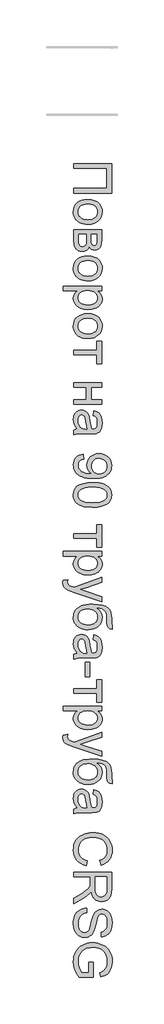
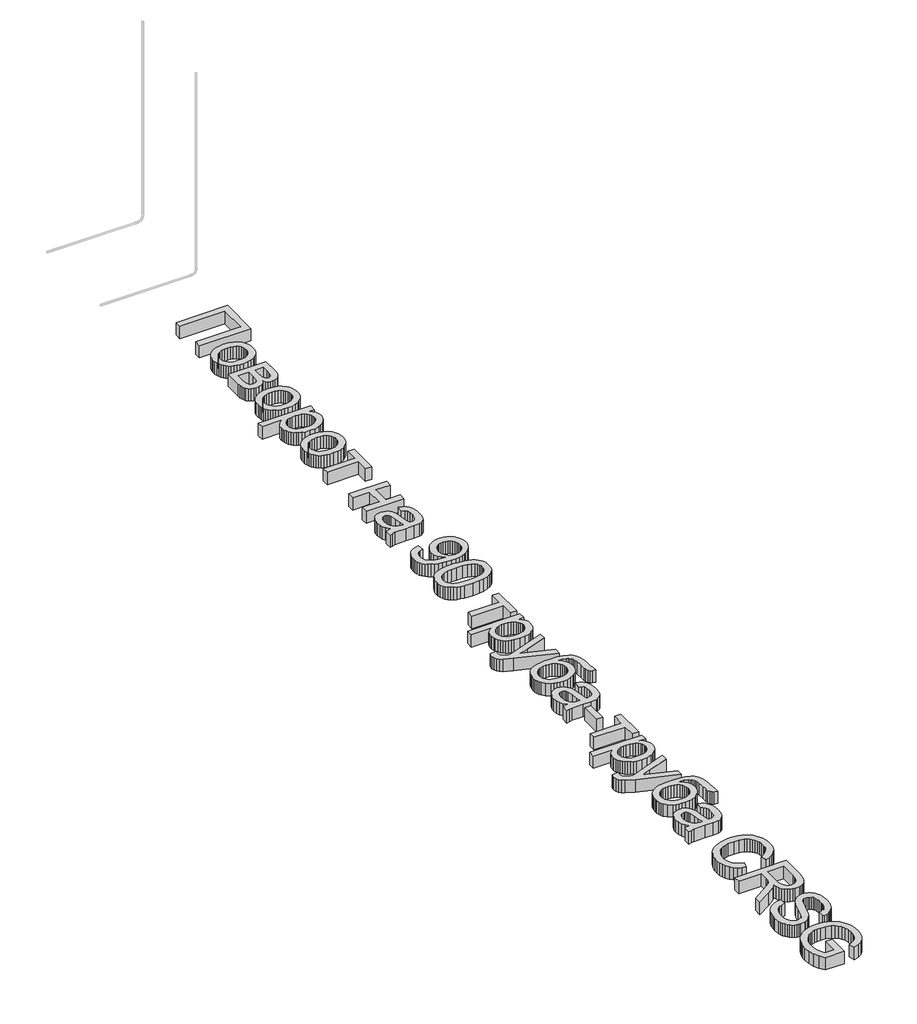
# One storey, part 17 of 33: 1 proxy.
"""IFC4 building model written with IfcOpenShell, lengths in millimetres."""

from ifc_helpers import new_model, si_unit, origin, origin_with_axes, place, context, project, spatial, polyline, outline, extrude, element, save

model = new_model("IFC4")

# Units and contexts
model_context = context("Model", 3, world=origin())
ifc_project = project(units=[si_unit("LENGTHUNIT", "METRE", prefix="MILLI")], contexts=[model_context])

# Site, building, storey
site = spatial("IfcSite", under=ifc_project)
building = spatial("IfcBuilding", under=site)
storey = spatial("IfcBuildingStorey", under=building, Name="Уровень 1", Elevation=0.0)

# Proxy
placement = place(None, origin())
element("IfcBuildingElementProxy", 1, Name="Надпись на модели 1", ObjectType="Надпись на модели 1", at=placement, inside=storey, context=model_context, shape_type="SweptSolid", body=[
    extrude(outline(polyline([(23915.2318032, -797.7209838), (23915.2318032, -1259.2594454), (23324.4625724, -1259.2594454), (23324.4625724, -1185.4132915), (23841.3856493, -1185.4132915), (23841.3856493, -871.5671377), (23324.4625724, -871.5671377), (23324.4625724, -797.7209838), (23915.2318032, -797.7209838)])), origin_with_axes(), (0.0, 0.0, 1.0), 150.0),
    extrude(outline(polyline([(23541.3856493, -1360.7979069), (23597.5725484, -1364.7912963), (23645.9890147, -1376.7714646), (23686.6350484, -1396.7384117), (23719.5106493, -1424.6921377), (23740.5232695, -1452.8351665), (23755.5322839, -1483.8988684), (23764.5376926, -1517.8832434), (23767.5394955, -1554.7882915), (23763.8841469, -1595.5289766), (23752.9181012, -1632.3664165), (23734.6413585, -1665.3006112), (23709.0539186, -1694.3315607), (23677.0211662, -1718.0259718), (23639.4084859, -1734.9505511), (23596.2158777, -1745.1052987), (23547.4433416, -1748.4902146), (23507.9150964, -1746.9938204), (23472.8399762, -1742.5046377), (23442.2179811, -1735.0226665), (23416.0491109, -1724.5479069), (23393.445445, -1711.211068), (23373.5190628, -1695.1428588), (23356.2699642, -1676.3432795), (23341.6981493, -1654.81233), (23330.1191229, -1631.3883516), (23321.8483897, -1606.9096857), (23316.8859498, -1581.3763324), (23315.2318032, -1554.7882915), (23318.8736301, -1513.4526545), (23329.7991109, -1476.2726665), (23348.0082455, -1443.2483276), (23373.5010339, -1414.3796377), (23405.8447839, -1390.9376305), (23444.6068032, -1374.1933396), (23489.7870916, -1364.1467651), (23541.3856493, -1360.7979069)]), holes=[polyline([(23541.5298801, -1434.6440607), (23505.71107, -1436.780479), (23474.6969474, -1443.1897338), (23448.4875123, -1453.8718252), (23427.0827647, -1468.8267531), (23410.4556613, -1487.0178588), (23398.5791589, -1507.4084838), (23391.4532575, -1529.9986281), (23389.077957, -1554.7882915), (23391.4667791, -1579.4517531), (23398.6332455, -1601.9517531), (23410.5773561, -1622.2882915), (23427.2991109, -1640.4613684), (23448.9156974, -1655.4162963), (23475.5443032, -1666.0983877), (23507.1849282, -1672.5076425), (23543.8375724, -1674.6440607), (23578.5205652, -1672.4941208), (23608.7233897, -1666.0443011), (23634.446046, -1655.2946016), (23655.6885339, -1640.2450223), (23672.3156373, -1622.0043372), (23684.1921397, -1601.6813204), (23691.3180412, -1579.2759718), (23693.6933416, -1554.7882915), (23691.3270556, -1529.9986281), (23684.2281974, -1507.4084838), (23672.3967671, -1487.0178588), (23655.8327647, -1468.8267531), (23634.4911181, -1453.8718252), (23608.3267551, -1443.1897338), (23577.3396758, -1436.780479), (23541.5298801, -1434.6440607)])]), origin_with_axes(), (0.0, 0.0, 1.0), 150.0),
    extrude(outline(polyline([(23758.3087262, -1831.5671377), (23758.3087262, -1994.2594454), (23755.8387743, -2046.5611281), (23748.4289186, -2083.4661761), (23734.4385339, -2110.6176184), (23712.2269955, -2133.6584838), (23683.2906974, -2149.3976665), (23649.1260339, -2154.6440607), (23621.5959859, -2151.4709838), (23597.8519955, -2141.9517531), (23577.7858897, -2126.0503107), (23561.2894955, -2103.7305992), (23545.9469474, -2131.06233), (23521.265457, -2153.3459838), (23489.1921397, -2168.1656954), (23451.6741109, -2173.1055992), (23421.4487503, -2169.0040367), (23395.3880532, -2160.59358), (23373.4920195, -2147.874229), (23355.7606493, -2130.8459838), (23342.0677407, -2109.4818011), (23332.2870916, -2083.7546377), (23326.4187022, -2053.6644934), (23324.4625724, -2019.2113684), (23324.4625724, -1831.5671377), (23758.3087262, -1831.5671377)]), holes=[polyline([(23398.3087262, -1905.4132915), (23398.3087262, -1995.9902146), (23401.6440628, -2045.3531954), (23411.6500724, -2076.3267531), (23419.5331854, -2085.9271136), (23429.8411782, -2092.9493492), (23457.7318032, -2099.2594454), (23476.2113705, -2096.1043973), (23493.2846878, -2086.6392531), (23506.6440628, -2072.1080031), (23513.9818032, -2053.7546377), (23518.3087262, -1988.7786761), (23518.3087262, -1905.4132915), (23398.3087262, -1905.4132915)]), polyline([(23592.1548801, -1905.4132915), (23592.1548801, -1978.3940607), (23595.9048801, -2038.6104069), (23601.5298801, -2054.1152146), (23610.9048801, -2067.8892531), (23623.3087262, -2077.5707434), (23638.0202647, -2080.7979069), (23650.0184618, -2079.3826425), (23660.0515147, -2075.1368492), (23668.1194234, -2068.0605271), (23674.2221878, -2058.1536761), (23681.9024762, -2027.46858), (23684.4625724, -1980.7017531), (23684.4625724, -1905.4132915), (23592.1548801, -1905.4132915)])]), origin_with_axes(), (0.0, 0.0, 1.0), 150.0),
    extrude(outline(polyline([(23541.3856493, -2246.9517531), (23597.5725484, -2250.9451425), (23645.9890147, -2262.9253107), (23686.6350484, -2282.8922579), (23719.5106493, -2310.8459838), (23740.5232695, -2338.9890127), (23755.5322839, -2370.0527146), (23764.5376926, -2404.0370896), (23767.5394955, -2440.9421377), (23763.8841469, -2481.6828228), (23752.9181012, -2518.5202627), (23734.6413585, -2551.4544574), (23709.0539186, -2580.4854069), (23677.0211662, -2604.179818), (23639.4084859, -2621.1043973), (23596.2158777, -2631.2591449), (23547.4433416, -2634.6440607), (23507.9150964, -2633.1476665), (23472.8399762, -2628.6584838), (23442.2179811, -2621.1765127), (23416.0491109, -2610.7017531), (23393.445445, -2597.3649141), (23373.5190628, -2581.296705), (23356.2699642, -2562.4971256), (23341.6981493, -2540.9661761), (23330.1191229, -2517.5421978), (23321.8483897, -2493.0635319), (23316.8859498, -2467.5301785), (23315.2318032, -2440.9421377), (23318.8736301, -2399.6065006), (23329.7991109, -2362.4265127), (23348.0082455, -2329.4021737), (23373.5010339, -2300.5334838), (23405.8447839, -2277.0914766), (23444.6068032, -2260.3471857), (23489.7870916, -2250.3006112), (23541.3856493, -2246.9517531)]), holes=[polyline([(23541.5298801, -2320.7979069), (23505.71107, -2322.9343252), (23474.6969474, -2329.34358), (23448.4875123, -2340.0256713), (23427.0827647, -2354.9805992), (23410.4556613, -2373.171705), (23398.5791589, -2393.56233), (23391.4532575, -2416.1524742), (23389.077957, -2440.9421377), (23391.4667791, -2465.6055992), (23398.6332455, -2488.1055992), (23410.5773561, -2508.4421377), (23427.2991109, -2526.6152146), (23448.9156974, -2541.5701425), (23475.5443032, -2552.2522338), (23507.1849282, -2558.6614886), (23543.8375724, -2560.7979069), (23578.5205652, -2558.647967), (23608.7233897, -2552.1981473), (23634.446046, -2541.4484478), (23655.6885339, -2526.3988684), (23672.3156373, -2508.1581833), (23684.1921397, -2487.8351665), (23691.3180412, -2465.429818), (23693.6933416, -2440.9421377), (23691.3270556, -2416.1524742), (23684.2281974, -2393.56233), (23672.3967671, -2373.171705), (23655.8327647, -2354.9805992), (23634.4911181, -2340.0256713), (23608.3267551, -2329.34358), (23577.3396758, -2322.9343252), (23541.5298801, -2320.7979069)])]), origin_with_axes(), (0.0, 0.0, 1.0), 150.0),
    extrude(outline(polyline([(23158.3087262, -2717.7209838), (23758.3087262, -2717.7209838), (23758.3087262, -2791.5671377), (23685.9048801, -2791.5671377), (23721.6200243, -2815.6536761), (23747.1308416, -2842.62483), (23762.437332, -2874.0671377), (23767.5394955, -2911.5671377), (23765.7546397, -2937.3213444), (23760.4000724, -2961.5070415), (23751.4757936, -2984.124229), (23738.9818032, -3005.1729069), (23723.2426205, -3024.1933396), (23704.5827647, -3040.7257915), (23683.0022359, -3054.7702627), (23658.5010339, -3066.3267531), (23604.0899762, -3081.7955031), (23544.702957, -3086.9517531), (23481.5479089, -3081.1284357), (23452.4718873, -3073.8492891), (23425.0635339, -3063.6584838), (23400.0394955, -3050.6957434), (23378.1164186, -3035.1007915), (23359.2943032, -3016.8736281), (23343.5731493, -2996.0142531), (23331.1738104, -2973.5458035), (23322.3171397, -2950.4914165), (23317.0031373, -2926.851092), (23315.2318032, -2902.62483), (23319.9733897, -2868.6765127), (23334.1981493, -2838.3700223), (23355.6705051, -2812.4265127), (23382.1548801, -2791.5671377), (23158.3087262, -2791.5671377), (23158.3087262, -2717.7209838)]), holes=[polyline([(23537.9241109, -2791.5671377), (23502.3351686, -2793.5638324), (23471.7221878, -2799.5539165), (23446.0851686, -2809.5373901), (23425.4241109, -2823.5142531), (23409.5226686, -2840.3396737), (23398.1644955, -2858.8688204), (23391.3495916, -2879.101693), (23389.077957, -2901.0382915), (23391.4307214, -2923.2903949), (23398.4890147, -2943.8928588), (23410.2528368, -2962.8456833), (23426.7221878, -2980.1488684), (23448.1314426, -2994.5674381), (23474.7149762, -3004.8664165), (23506.4727887, -3011.0458035), (23543.4048801, -3013.1055992), (23578.687332, -3011.0953829), (23609.2462262, -3005.0647338), (23635.0815628, -2995.0136521), (23656.1933416, -2980.9421377), (23672.5995916, -2964.0761521), (23684.3183416, -2945.6416569), (23691.3495916, -2925.6386521), (23693.6933416, -2904.0671377), (23691.2008537, -2882.5632314), (23683.7233897, -2862.3303588), (23671.2609498, -2843.3685199), (23653.8135339, -2825.6777146), (23631.6155171, -2810.7543372), (23604.9012743, -2800.0947819), (23573.6708056, -2793.6990487), (23537.9241109, -2791.5671377)])]), origin_with_axes(), (0.0, 0.0, 1.0), 150.0),
    extrude(outline(polyline([(23541.3856493, -3151.5671377), (23597.5725484, -3155.5605271), (23645.9890147, -3167.5406954), (23686.6350484, -3187.5076425), (23719.5106493, -3215.4613684), (23740.5232695, -3243.6043973), (23755.5322839, -3274.6680992), (23764.5376926, -3308.6524742), (23767.5394955, -3345.5575223), (23763.8841469, -3386.2982074), (23752.9181012, -3423.1356473), (23734.6413585, -3456.069842), (23709.0539186, -3485.1007915), (23677.0211662, -3508.7952026), (23639.4084859, -3525.7197819), (23596.2158777, -3535.8745295), (23547.4433416, -3539.2594454), (23507.9150964, -3537.7630511), (23472.8399762, -3533.2738684), (23442.2179811, -3525.7918973), (23416.0491109, -3515.3171377), (23393.445445, -3501.9802987), (23373.5190628, -3485.9120896), (23356.2699642, -3467.1125103), (23341.6981493, -3445.5815607), (23330.1191229, -3422.1575824), (23321.8483897, -3397.6789165), (23316.8859498, -3372.1455631), (23315.2318032, -3345.5575223), (23318.8736301, -3304.2218853), (23329.7991109, -3267.0418973), (23348.0082455, -3234.0175583), (23373.5010339, -3205.1488684), (23405.8447839, -3181.7068612), (23444.6068032, -3164.9625704), (23489.7870916, -3154.9159958), (23541.3856493, -3151.5671377)]), holes=[polyline([(23541.5298801, -3225.4132915), (23505.71107, -3227.5497098), (23474.6969474, -3233.9589646), (23448.4875123, -3244.6410559), (23427.0827647, -3259.5959838), (23410.4556613, -3277.7870896), (23398.5791589, -3298.1777146), (23391.4532575, -3320.7678588), (23389.077957, -3345.5575223), (23391.4667791, -3370.2209838), (23398.6332455, -3392.7209838), (23410.5773561, -3413.0575223), (23427.2991109, -3431.2305992), (23448.9156974, -3446.1855271), (23475.5443032, -3456.8676184), (23507.1849282, -3463.2768732), (23543.8375724, -3465.4132915), (23578.5205652, -3463.2633516), (23608.7233897, -3456.8135319), (23634.446046, -3446.0638324), (23655.6885339, -3431.0142531), (23672.3156373, -3412.773568), (23684.1921397, -3392.4505511), (23691.3180412, -3370.0452026), (23693.6933416, -3345.5575223), (23691.3270556, -3320.7678588), (23684.2281974, -3298.1777146), (23672.3967671, -3277.7870896), (23655.8327647, -3259.5959838), (23634.4911181, -3244.6410559), (23608.3267551, -3233.9589646), (23577.3396758, -3227.5497098), (23541.5298801, -3225.4132915)])]), origin_with_axes(), (0.0, 0.0, 1.0), 150.0),
    extrude(outline(polyline([(23758.3087262, -3585.4132915), (23758.3087262, -3936.1825223), (23684.4625724, -3936.1825223), (23684.4625724, -3797.7209838), (23324.4625724, -3797.7209838), (23324.4625724, -3723.87483), (23684.4625724, -3723.87483), (23684.4625724, -3585.4132915), (23758.3087262, -3585.4132915)])), origin_with_axes(), (0.0, 0.0, 1.0), 150.0),
    extrude(outline(polyline([(23758.3087262, -4231.5671377), (23758.3087262, -4305.4132915), (23592.1548801, -4305.4132915), (23592.1548801, -4499.2594454), (23758.3087262, -4499.2594454), (23758.3087262, -4573.1055992), (23324.4625724, -4573.1055992), (23324.4625724, -4499.2594454), (23518.3087262, -4499.2594454), (23518.3087262, -4305.4132915), (23324.4625724, -4305.4132915), (23324.4625724, -4231.5671377), (23758.3087262, -4231.5671377)])), origin_with_axes(), (0.0, 0.0, 1.0), 150.0),
    extrude(outline(polyline([(23379.8471878, -4960.7979069), (23349.5947839, -4925.515455), (23329.7991109, -4889.18733), (23318.8736301, -4850.984205), (23315.2318032, -4810.0767531), (23317.422308, -4777.1966449), (23323.9938224, -4748.3640127), (23334.9463464, -4723.5788564), (23350.2798801, -4702.8411761), (23369.0208657, -4686.4664766), (23390.1957455, -4674.7702627), (23413.8045195, -4667.7525343), (23439.8471878, -4665.4132915), (23470.4601686, -4668.9469454), (23498.2606493, -4679.5479069), (23522.0587262, -4695.9000704), (23540.6644955, -4716.68733), (23554.7269955, -4741.1164165), (23564.8952647, -4768.3940607), (23576.0010339, -4832.2882915), (23587.6837262, -4907.7930992), (23601.3856493, -4960.3652146), (23617.827957, -4960.7979069), (23650.7846878, -4955.7137723), (23662.9902166, -4949.358604), (23672.3471878, -4940.4613684), (23681.6861301, -4925.0827627), (23688.3568032, -4906.3507915), (23693.6933416, -4858.8267531), (23690.1416589, -4814.8363684), (23679.4866109, -4784.1152146), (23659.781082, -4763.1656954), (23629.077957, -4748.4902146), (23638.3087262, -4674.6440607), (23678.6933416, -4687.4625704), (23710.4241109, -4706.5911761), (23734.6909378, -4733.8147338), (23752.6837262, -4770.9180992), (23763.8255532, -4816.296705), (23767.5394955, -4868.3459838), (23764.2582455, -4918.2678588), (23754.4144955, -4957.8411761), (23739.6128128, -4987.6789165), (23721.4577647, -5008.3940607), (23699.0118512, -5022.1320415), (23671.3375724, -5031.0382915), (23606.7221878, -5034.6440607), (23514.8471878, -5034.6440607), (23386.5539186, -5038.3940607), (23354.8411782, -5043.9469454), (23324.4625724, -5053.1055992), (23324.4625724, -4979.2594454), (23350.1356493, -4967.4325223), (23379.8471878, -4960.7979069)]), holes=[polyline([(23527.5394955, -4960.7979069), (23515.2438224, -4911.1825223), (23504.8952647, -4841.6632915), (23492.9241109, -4778.1296377), (23484.7390147, -4761.5971857), (23473.452957, -4749.3555992), (23459.9313224, -4741.7834838), (23445.0394955, -4739.2594454), (23423.0803609, -4744.7582434), (23405.0875724, -4761.2546377), (23393.0803609, -4788.3880511), (23389.077957, -4825.7979069), (23393.4950243, -4865.4613684), (23406.7462262, -4900.5094454), (23426.2714666, -4928.9229069), (23449.5106493, -4948.6825223), (23473.452957, -4957.4445415), (23506.6260339, -4960.3652146), (23527.5394955, -4960.7979069)])]), origin_with_axes(), (0.0, 0.0, 1.0), 150.0),
    extrude(outline(polyline([(23472.1548801, -5357.7209838), (23481.3856493, -5431.5671377), (23439.468582, -5444.18733), (23423.5265748, -5453.4721857), (23410.9289186, -5464.7402146), (23401.3691229, -5477.8652146), (23394.5406974, -5492.7209838), (23389.077957, -5527.62483), (23392.593582, -5558.9409357), (23403.140457, -5587.4084838), (23419.5647359, -5611.06233), (23440.7125724, -5627.93733), (23468.5130532, -5640.7197819), (23504.8952647, -5652.0959838), (23546.6500724, -5660.1007915), (23590.5683416, -5662.7690607), (23604.9914186, -5662.3363684), (23573.765457, -5636.7534357), (23549.0298801, -5603.2738684), (23532.9120916, -5564.3135319), (23527.5394955, -5522.2882915), (23530.8207455, -5487.2086641), (23540.6644955, -5454.9505511), (23557.0707455, -5425.5139526), (23580.0394955, -5398.8988684), (23608.3718272, -5376.8450824), (23640.8688224, -5361.0923781), (23677.5304811, -5351.6407555), (23718.3568032, -5348.4902146), (23760.5443032, -5351.7940006), (23798.4048801, -5361.7053588), (23831.9385339, -5378.2242891), (23861.1452647, -5401.3507915), (23884.8081253, -5429.4532555), (23901.7101686, -5460.9000704), (23911.8513945, -5495.6912362), (23915.2318032, -5533.8267531), (23913.3027166, -5561.9833035), (23907.515457, -5588.9048781), (23897.8700243, -5614.5914766), (23884.3664186, -5639.0430992), (23867.2931012, -5661.4439406), (23846.9385339, -5680.9781954), (23823.3027166, -5697.6458636), (23796.3856493, -5711.4469454), (23764.6368512, -5722.2687603), (23726.5058416, -5729.9986281), (23681.9926205, -5734.6365487), (23631.0971878, -5736.1825223), (23577.6461662, -5734.6410559), (23529.937332, -5730.0166569), (23487.9706854, -5722.3093252), (23451.7462262, -5711.5190607), (23420.3805412, -5697.6864285), (23392.9902166, -5680.8519934), (23369.5752527, -5661.0157555), (23350.1356493, -5638.1777146), (23334.8652166, -5612.7976064), (23323.9577647, -5585.3351665), (23317.4132936, -5555.7903949), (23315.2318032, -5524.1632915), (23317.805421, -5490.999229), (23325.5262743, -5461.0262723), (23338.3943633, -5434.2444213), (23356.4096878, -5410.6536761), (23379.085469, -5390.8489886), (23405.9349282, -5375.4253107), (23436.9580652, -5364.3826425), (23472.1548801, -5357.7209838)]), holes=[polyline([(23720.0875724, -5662.3363684), (23746.5539186, -5660.3441809), (23770.1356493, -5654.3676184), (23790.8327647, -5644.4066809), (23808.6452647, -5630.4613684), (23822.969183, -5613.2167771), (23833.2005532, -5593.3580031), (23839.3393753, -5570.8850463), (23841.3856493, -5545.7979069), (23839.1816229, -5519.9084838), (23832.5695436, -5496.4709838), (23821.5494113, -5475.4854069), (23806.1212262, -5456.9517531), (23787.1864306, -5441.8075223), (23765.6464666, -5430.9902146), (23741.5013344, -5424.49983), (23714.7510339, -5422.3363684), (23690.7591469, -5424.3826425), (23669.1200243, -5430.5214646), (23649.8336662, -5440.7528348), (23632.9000724, -5455.0767531), (23619.1125123, -5472.8982675), (23609.2642551, -5493.6224261), (23603.3553008, -5517.249229), (23601.3856493, -5543.7786761), (23603.3553008, -5568.5187603), (23609.2642551, -5590.9601665), (23619.1125123, -5611.1028949), (23632.9000724, -5628.9469454), (23650.1671998, -5643.554818), (23670.4541589, -5653.9890127), (23693.7609498, -5660.2495295), (23720.0875724, -5662.3363684)])]), origin_with_axes(), (0.0, 0.0, 1.0), 150.0),
    extrude(outline(polyline([(23615.0875724, -5800.7979069), (23709.6488705, -5806.2245896), (23749.7495315, -5813.007943), (23785.0635339, -5822.5046377), (23815.8793392, -5834.6741088), (23842.4854089, -5849.4757915), (23864.8817431, -5866.9096857), (23883.0683416, -5886.9757915), (23897.1398561, -5909.741717), (23907.1909378, -5935.2750704), (23913.2215868, -5963.5758516), (23915.2318032, -5994.6440607), (23910.4721878, -6040.1488684), (23896.1933416, -6080.8940607), (23872.9541589, -6114.96858), (23841.3135339, -6140.4613684), (23801.5418993, -6159.7161761), (23753.9096878, -6175.0767531), (23693.4229089, -6185.1368492), (23615.0875724, -6188.4902146), (23521.0671397, -6183.1176184), (23481.101695, -6176.4018732), (23445.8327647, -6166.99983), (23415.0034378, -6154.9250103), (23388.3568032, -6140.1909357), (23365.8928609, -6122.7976064), (23347.6116109, -6102.7450223), (23333.445445, -6079.9520535), (23323.3267551, -6054.3375704), (23317.2555412, -6025.9015728), (23315.2318032, -5994.6440607), (23318.7474282, -5953.9709838), (23329.2943032, -5917.9132915), (23346.8724282, -5886.4709838), (23371.4818032, -5859.6440607), (23415.9679811, -5833.8988684), (23471.3976686, -5815.5094454), (23537.7708657, -5804.4757915), (23615.0875724, -5800.7979069)]), holes=[polyline([(23615.2318032, -5874.6440607), (23551.0355892, -5876.8075223), (23499.0719474, -5883.2979069), (23459.3408777, -5894.1152146), (23431.8423801, -5909.2594454), (23413.132945, -5927.5767531), (23399.7690628, -5947.9132915), (23391.7507335, -5970.2690607), (23389.077957, -5994.6440607), (23391.7597479, -6019.0190607), (23399.8051205, -6041.37483), (23413.2140748, -6061.7113684), (23431.9866109, -6080.0286761), (23459.5301806, -6095.1729069), (23499.2522359, -6105.9902146), (23551.1527767, -6112.4805992), (23615.2318032, -6114.6440607), (23677.7287984, -6112.5527146), (23728.7774762, -6106.2786761), (23768.3778368, -6095.8219454), (23796.5298801, -6081.1825223), (23816.1542791, -6063.171705), (23830.171707, -6042.6007915), (23838.5821637, -6019.4697819), (23841.3856493, -5993.7786761), (23838.9156974, -5969.5298781), (23831.5058416, -5947.5527146), (23819.156082, -5927.8471857), (23801.8664186, -5910.4132915), (23771.2173801, -5894.7642531), (23729.8952647, -5883.5863684), (23677.9000724, -5876.8796377), (23615.2318032, -5874.6440607)])]), origin_with_axes(), (0.0, 0.0, 1.0), 150.0),
    extrude(outline(polyline([(23758.3087262, -6465.4132915), (23758.3087262, -6816.1825223), (23684.4625724, -6816.1825223), (23684.4625724, -6677.7209838), (23324.4625724, -6677.7209838), (23324.4625724, -6603.87483), (23684.4625724, -6603.87483), (23684.4625724, -6465.4132915), (23758.3087262, -6465.4132915)])), origin_with_axes(), (0.0, 0.0, 1.0), 150.0),
    extrude(outline(polyline([(23158.3087262, -6880.7979069), (23758.3087262, -6880.7979069), (23758.3087262, -6954.6440607), (23685.9048801, -6954.6440607), (23721.6200243, -6978.7305992), (23747.1308416, -7005.7017531), (23762.437332, -7037.1440607), (23767.5394955, -7074.6440607), (23765.7546397, -7100.3982675), (23760.4000724, -7124.5839646), (23751.4757936, -7147.2011521), (23738.9818032, -7168.24983), (23723.2426205, -7187.2702627), (23704.5827647, -7203.8027146), (23683.0022359, -7217.8471857), (23658.5010339, -7229.4036761), (23604.0899762, -7244.8724261), (23544.702957, -7250.0286761), (23481.5479089, -7244.2053588), (23452.4718873, -7236.9262122), (23425.0635339, -7226.7354069), (23400.0394955, -7213.7726665), (23378.1164186, -7198.1777146), (23359.2943032, -7179.9505511), (23343.5731493, -7159.0911761), (23331.1738104, -7136.6227266), (23322.3171397, -7113.5683396), (23317.0031373, -7089.9280151), (23315.2318032, -7065.7017531), (23319.9733897, -7031.7534357), (23334.1981493, -7001.4469454), (23355.6705051, -6975.5034357), (23382.1548801, -6954.6440607), (23158.3087262, -6954.6440607), (23158.3087262, -6880.7979069)]), holes=[polyline([(23537.9241109, -6954.6440607), (23502.3351686, -6956.6407555), (23471.7221878, -6962.6308396), (23446.0851686, -6972.6143131), (23425.4241109, -6986.5911761), (23409.5226686, -7003.4165968), (23398.1644955, -7021.9457434), (23391.3495916, -7042.178616), (23389.077957, -7064.1152146), (23391.4307214, -7086.367318), (23398.4890147, -7106.9697819), (23410.2528368, -7125.9226064), (23426.7221878, -7143.2257915), (23448.1314426, -7157.6443612), (23474.7149762, -7167.9433396), (23506.4727887, -7174.1227266), (23543.4048801, -7176.1825223), (23578.687332, -7174.1723059), (23609.2462262, -7168.1416569), (23635.0815628, -7158.0905752), (23656.1933416, -7144.0190607), (23672.5995916, -7127.1530752), (23684.3183416, -7108.71858), (23691.3495916, -7088.7155752), (23693.6933416, -7067.1440607), (23691.2008537, -7045.6401545), (23683.7233897, -7025.4072819), (23671.2609498, -7006.445443), (23653.8135339, -6988.7546377), (23631.6155171, -6973.8312603), (23604.9012743, -6963.171705), (23573.6708056, -6956.7759718), (23537.9241109, -6954.6440607)])]), origin_with_axes(), (0.0, 0.0, 1.0), 150.0),
    extrude(outline(polyline([(23158.3087262, -7333.1055992), (23229.4144955, -7323.87483), (23222.9241109, -7361.37483), (23224.9613705, -7381.0983877), (23231.0731493, -7396.4229069), (23240.8267551, -7408.3580031), (23253.7894955, -7417.9132915), (23308.1644955, -7438.1055992), (23326.0491109, -7443.87483), (23758.3087262, -7286.9517531), (23758.3087262, -7364.8363684), (23517.4433416, -7448.0575223), (23421.0971878, -7477.0479069), (23506.1933416, -7506.0382915), (23758.3087262, -7591.5671377), (23758.3087262, -7668.87483), (23314.077957, -7517.8652146), (23217.7318032, -7478.6344454), (23186.9745916, -7458.5503107), (23165.6644955, -7435.7979069), (23153.2245916, -7409.3676184), (23149.077957, -7378.24983), (23151.3856493, -7356.8676184), (23158.3087262, -7333.1055992)])), origin_with_axes(), (0.0, 0.0, 1.0), 150.0),
    extrude(outline(polyline([(23924.4625724, -8034.6440607), (23924.4625724, -8099.2594454), (23889.3604089, -8092.2642531), (23866.8423801, -8080.2209838), (23853.5190628, -8063.5262723), (23846.0010339, -8042.5767531), (23842.5394955, -8008.4301184), (23841.3856493, -7952.1440607), (23837.1308416, -7877.0539165), (23831.812332, -7850.1503708), (23824.3664186, -7830.3411761), (23814.5767551, -7815.2239886), (23802.2269955, -7802.3964646), (23787.3171397, -7791.858604), (23769.8471878, -7783.6104069), (23726.9745916, -7772.5587242), (23673.3568032, -7767.8171377), (23714.6068032, -7797.5106473), (23744.0298801, -7831.7834838), (23761.6620916, -7870.671705), (23767.5394955, -7914.2113684), (23763.8030171, -7954.4427386), (23752.593582, -7991.0503107), (23733.9111902, -8024.0340848), (23707.7558416, -8053.3940607), (23675.227296, -8077.4986281), (23637.4253128, -8094.7161761), (23594.3498921, -8105.046705), (23546.0010339, -8108.4902146), (23509.0148561, -8106.7819814), (23475.5082455, -8101.6572819), (23445.4812022, -8093.116116), (23418.9337262, -8081.1584838), (23374.9613705, -8051.2846857), (23342.2750724, -8016.3267531), (23330.4436421, -7995.8820415), (23321.9926205, -7972.0479069), (23316.9220075, -7944.8243492), (23315.2318032, -7914.2113684), (23317.4087863, -7878.7982074), (23323.9397359, -7847.5587242), (23334.8246517, -7820.4929189), (23350.0635339, -7797.6007915), (23368.6963464, -7778.007943), (23389.7630532, -7760.8399742), (23413.2636541, -7746.0968853), (23439.1981493, -7733.7786761), (23471.3841469, -7724.0611281), (23513.6392551, -7717.1200223), (23565.9634738, -7712.9553588), (23628.3568032, -7711.5671377), (23706.1107094, -7715.069241), (23770.0455051, -7725.5755511), (23820.1611902, -7743.086068), (23840.0368663, -7754.4679039), (23856.4577647, -7767.6007915), (23882.1714065, -7799.3811401), (23900.5382936, -7838.6885319), (23911.5584258, -7885.522967), (23915.2318032, -7939.8844454), (23916.890457, -8022.0959838), (23919.6128128, -8030.1368492), (23924.4625724, -8034.6440607)]), holes=[polyline([(23548.3087262, -8034.6440607), (23578.8090267, -8032.6428588), (23606.4156974, -8026.6392531), (23631.1287383, -8016.6332434), (23652.9481493, -8002.62483), (23670.774171, -7984.9745896), (23683.5070436, -7964.0430992), (23691.1467671, -7939.8303588), (23693.6933416, -7912.3363684), (23691.0025363, -7883.6434598), (23682.9301205, -7858.4301184), (23669.476094, -7836.6963444), (23650.640457, -7818.4421377), (23627.3066229, -7803.9920175), (23600.3580051, -7793.6705031), (23569.7946037, -7787.4775944), (23535.6164186, -7785.4132915), (23502.1503729, -7787.6939406), (23472.8580051, -7794.5358877), (23447.7393152, -7805.9391329), (23426.7943032, -7821.9036761), (23410.2934017, -7841.2125704), (23398.5070436, -7862.6488684), (23391.4352287, -7886.2125704), (23389.077957, -7911.9036761), (23391.80482, -7937.9463444), (23399.9854089, -7961.4108877), (23413.6197238, -7982.2973059), (23432.7077647, -8000.6055992), (23456.2940027, -8015.4974261), (23483.4229089, -8026.1344454), (23514.0944835, -8032.5166569), (23548.3087262, -8034.6440607)])]), origin_with_axes(), (0.0, 0.0, 1.0), 150.0),
    extrude(outline(polyline([(23379.8471878, -8477.7209838), (23349.5947839, -8442.4385319), (23329.7991109, -8406.1104069), (23318.8736301, -8367.9072819), (23315.2318032, -8326.99983), (23317.422308, -8294.1197218), (23323.9938224, -8265.2870896), (23334.9463464, -8240.5019333), (23350.2798801, -8219.7642531), (23369.0208657, -8203.3895535), (23390.1957455, -8191.6933396), (23413.8045195, -8184.6756112), (23439.8471878, -8182.3363684), (23470.4601686, -8185.8700223), (23498.2606493, -8196.4709838), (23522.0587262, -8212.8231473), (23540.6644955, -8233.6104069), (23554.7269955, -8258.0394934), (23564.8952647, -8285.3171377), (23576.0010339, -8349.2113684), (23587.6837262, -8424.7161761), (23601.3856493, -8477.2882915), (23617.827957, -8477.7209838), (23650.7846878, -8472.6368492), (23662.9902166, -8466.2816809), (23672.3471878, -8457.3844454), (23681.6861301, -8442.0058396), (23688.3568032, -8423.2738684), (23693.6933416, -8375.74983), (23690.1416589, -8331.7594454), (23679.4866109, -8301.0382915), (23659.781082, -8280.0887723), (23629.077957, -8265.4132915), (23638.3087262, -8191.5671377), (23678.6933416, -8204.3856473), (23710.4241109, -8223.5142531), (23734.6909378, -8250.7378107), (23752.6837262, -8287.8411761), (23763.8255532, -8333.2197819), (23767.5394955, -8385.2690607), (23764.2582455, -8435.1909357), (23754.4144955, -8474.7642531), (23739.6128128, -8504.6019934), (23721.4577647, -8525.3171377), (23699.0118512, -8539.0551184), (23671.3375724, -8547.9613684), (23606.7221878, -8551.5671377), (23514.8471878, -8551.5671377), (23386.5539186, -8555.3171377), (23354.8411782, -8560.8700223), (23324.4625724, -8570.0286761), (23324.4625724, -8496.1825223), (23350.1356493, -8484.3555992), (23379.8471878, -8477.7209838)]), holes=[polyline([(23527.5394955, -8477.7209838), (23515.2438224, -8428.1055992), (23504.8952647, -8358.5863684), (23492.9241109, -8295.0527146), (23484.7390147, -8278.5202627), (23473.452957, -8266.2786761), (23459.9313224, -8258.7065607), (23445.0394955, -8256.1825223), (23423.0803609, -8261.6813204), (23405.0875724, -8278.1777146), (23393.0803609, -8305.3111281), (23389.077957, -8342.7209838), (23393.4950243, -8382.3844454), (23406.7462262, -8417.4325223), (23426.2714666, -8445.8459838), (23449.5106493, -8465.6055992), (23473.452957, -8474.3676184), (23506.6260339, -8477.2882915), (23527.5394955, -8477.7209838)])]), origin_with_axes(), (0.0, 0.0, 1.0), 150.0),
    extrude(outline(polyline([(23499.8471878, -8616.1825223), (23573.6933416, -8616.1825223), (23573.6933416, -8846.9517531), (23499.8471878, -8846.9517531), (23499.8471878, -8616.1825223)])), origin_with_axes(), (0.0, 0.0, 1.0), 150.0),
    extrude(outline(polyline([(23758.3087262, -8893.1055992), (23758.3087262, -9243.87483), (23684.4625724, -9243.87483), (23684.4625724, -9105.4132915), (23324.4625724, -9105.4132915), (23324.4625724, -9031.5671377), (23684.4625724, -9031.5671377), (23684.4625724, -8893.1055992), (23758.3087262, -8893.1055992)])), origin_with_axes(), (0.0, 0.0, 1.0), 150.0),
    extrude(outline(polyline([(23158.3087262, -9308.4902146), (23758.3087262, -9308.4902146), (23758.3087262, -9382.3363684), (23685.9048801, -9382.3363684), (23721.6200243, -9406.4229069), (23747.1308416, -9433.3940607), (23762.437332, -9464.8363684), (23767.5394955, -9502.3363684), (23765.7546397, -9528.0905752), (23760.4000724, -9552.2762723), (23751.4757936, -9574.8934598), (23738.9818032, -9595.9421377), (23723.2426205, -9614.9625704), (23704.5827647, -9631.4950223), (23683.0022359, -9645.5394934), (23658.5010339, -9657.0959838), (23604.0899762, -9672.5647338), (23544.702957, -9677.7209838), (23481.5479089, -9671.8976665), (23452.4718873, -9664.6185199), (23425.0635339, -9654.4277146), (23400.0394955, -9641.4649742), (23378.1164186, -9625.8700223), (23359.2943032, -9607.6428588), (23343.5731493, -9586.7834838), (23331.1738104, -9564.3150343), (23322.3171397, -9541.2606473), (23317.0031373, -9517.6203228), (23315.2318032, -9493.3940607), (23319.9733897, -9459.4457434), (23334.1981493, -9429.1392531), (23355.6705051, -9403.1957434), (23382.1548801, -9382.3363684), (23158.3087262, -9382.3363684), (23158.3087262, -9308.4902146)]), holes=[polyline([(23537.9241109, -9382.3363684), (23502.3351686, -9384.3330631), (23471.7221878, -9390.3231473), (23446.0851686, -9400.3066208), (23425.4241109, -9414.2834838), (23409.5226686, -9431.1089045), (23398.1644955, -9449.6380511), (23391.3495916, -9469.8709237), (23389.077957, -9491.8075223), (23391.4307214, -9514.0596256), (23398.4890147, -9534.6620896), (23410.2528368, -9553.6149141), (23426.7221878, -9570.9180992), (23448.1314426, -9585.3366689), (23474.7149762, -9595.6356473), (23506.4727887, -9601.8150343), (23543.4048801, -9603.87483), (23578.687332, -9601.8646136), (23609.2462262, -9595.8339646), (23635.0815628, -9585.7828829), (23656.1933416, -9571.7113684), (23672.5995916, -9554.8453829), (23684.3183416, -9536.4108877), (23691.3495916, -9516.4078829), (23693.6933416, -9494.8363684), (23691.2008537, -9473.3324622), (23683.7233897, -9453.0995896), (23671.2609498, -9434.1377506), (23653.8135339, -9416.4469454), (23631.6155171, -9401.523568), (23604.9012743, -9390.8640127), (23573.6708056, -9384.4682795), (23537.9241109, -9382.3363684)])]), origin_with_axes(), (0.0, 0.0, 1.0), 150.0),
    extrude(outline(polyline([(23158.3087262, -9760.7979069), (23229.4144955, -9751.5671377), (23222.9241109, -9789.0671377), (23224.9613705, -9808.7906954), (23231.0731493, -9824.1152146), (23240.8267551, -9836.0503107), (23253.7894955, -9845.6055992), (23308.1644955, -9865.7979069), (23326.0491109, -9871.5671377), (23758.3087262, -9714.6440607), (23758.3087262, -9792.5286761), (23517.4433416, -9875.74983), (23421.0971878, -9904.7402146), (23506.1933416, -9933.7305992), (23758.3087262, -10019.2594454), (23758.3087262, -10096.5671377), (23314.077957, -9945.5575223), (23217.7318032, -9906.3267531), (23186.9745916, -9886.2426184), (23165.6644955, -9863.4902146), (23153.2245916, -9837.0599261), (23149.077957, -9805.9421377), (23151.3856493, -9784.5599261), (23158.3087262, -9760.7979069)])), origin_with_axes(), (0.0, 0.0, 1.0), 150.0),
    extrude(outline(polyline([(23924.4625724, -10462.3363684), (23924.4625724, -10526.9517531), (23889.3604089, -10519.9565607), (23866.8423801, -10507.9132915), (23853.5190628, -10491.21858), (23846.0010339, -10470.2690607), (23842.5394955, -10436.1224261), (23841.3856493, -10379.8363684), (23837.1308416, -10304.7462242), (23831.812332, -10277.8426785), (23824.3664186, -10258.0334838), (23814.5767551, -10242.9162963), (23802.2269955, -10230.0887723), (23787.3171397, -10219.5509117), (23769.8471878, -10211.3027146), (23726.9745916, -10200.2510319), (23673.3568032, -10195.5094454), (23714.6068032, -10225.202955), (23744.0298801, -10259.4757915), (23761.6620916, -10298.3640127), (23767.5394955, -10341.9036761), (23763.8030171, -10382.1350463), (23752.593582, -10418.7426184), (23733.9111902, -10451.7263925), (23707.7558416, -10481.0863684), (23675.227296, -10505.1909357), (23637.4253128, -10522.4084838), (23594.3498921, -10532.7390127), (23546.0010339, -10536.1825223), (23509.0148561, -10534.4742891), (23475.5082455, -10529.3495896), (23445.4812022, -10520.8084237), (23418.9337262, -10508.8507915), (23374.9613705, -10478.9769934), (23342.2750724, -10444.0190607), (23330.4436421, -10423.5743492), (23321.9926205, -10399.7402146), (23316.9220075, -10372.5166569), (23315.2318032, -10341.9036761), (23317.4087863, -10306.4905151), (23323.9397359, -10275.2510319), (23334.8246517, -10248.1852266), (23350.0635339, -10225.2930992), (23368.6963464, -10205.7002506), (23389.7630532, -10188.5322819), (23413.2636541, -10173.789193), (23439.1981493, -10161.4709838), (23471.3841469, -10151.7534357), (23513.6392551, -10144.81233), (23565.9634738, -10140.6476665), (23628.3568032, -10139.2594454), (23706.1107094, -10142.7615487), (23770.0455051, -10153.2678588), (23820.1611902, -10170.7783756), (23840.0368663, -10182.1602116), (23856.4577647, -10195.2930992), (23882.1714065, -10227.0734478), (23900.5382936, -10266.3808396), (23911.5584258, -10313.2152747), (23915.2318032, -10367.5767531), (23916.890457, -10449.7882915), (23919.6128128, -10457.8291569), (23924.4625724, -10462.3363684)]), holes=[polyline([(23548.3087262, -10462.3363684), (23578.8090267, -10460.3351665), (23606.4156974, -10454.3315607), (23631.1287383, -10444.3255511), (23652.9481493, -10430.3171377), (23670.774171, -10412.6668973), (23683.5070436, -10391.7354069), (23691.1467671, -10367.5226665), (23693.6933416, -10340.0286761), (23691.0025363, -10311.3357675), (23682.9301205, -10286.1224261), (23669.476094, -10264.3886521), (23650.640457, -10246.1344454), (23627.3066229, -10231.6843252), (23600.3580051, -10221.3628107), (23569.7946037, -10215.1699021), (23535.6164186, -10213.1055992), (23502.1503729, -10215.3862482), (23472.8580051, -10222.2281954), (23447.7393152, -10233.6314406), (23426.7943032, -10249.5959838), (23410.2934017, -10268.9048781), (23398.5070436, -10290.3411761), (23391.4352287, -10313.9048781), (23389.077957, -10339.5959838), (23391.80482, -10365.6386521), (23399.9854089, -10389.1031954), (23413.6197238, -10409.9896136), (23432.7077647, -10428.2979069), (23456.2940027, -10443.1897338), (23483.4229089, -10453.8267531), (23514.0944835, -10460.2089646), (23548.3087262, -10462.3363684)])]), origin_with_axes(), (0.0, 0.0, 1.0), 150.0),
    extrude(outline(polyline([(23379.8471878, -10905.4132915), (23349.5947839, -10870.1308396), (23329.7991109, -10833.8027146), (23318.8736301, -10795.5995896), (23315.2318032, -10754.6921377), (23317.422308, -10721.8120295), (23323.9938224, -10692.9793973), (23334.9463464, -10668.194241), (23350.2798801, -10647.4565607), (23369.0208657, -10631.0818612), (23390.1957455, -10619.3856473), (23413.8045195, -10612.3679189), (23439.8471878, -10610.0286761), (23470.4601686, -10613.56233), (23498.2606493, -10624.1632915), (23522.0587262, -10640.515455), (23540.6644955, -10661.3027146), (23554.7269955, -10685.7318011), (23564.8952647, -10713.0094454), (23576.0010339, -10776.9036761), (23587.6837262, -10852.4084838), (23601.3856493, -10904.9805992), (23617.827957, -10905.4132915), (23650.7846878, -10900.3291569), (23662.9902166, -10893.9739886), (23672.3471878, -10885.0767531), (23681.6861301, -10869.6981473), (23688.3568032, -10850.9661761), (23693.6933416, -10803.4421377), (23690.1416589, -10759.4517531), (23679.4866109, -10728.7305992), (23659.781082, -10707.78108), (23629.077957, -10693.1055992), (23638.3087262, -10619.2594454), (23678.6933416, -10632.077955), (23710.4241109, -10651.2065607), (23734.6909378, -10678.4301184), (23752.6837262, -10715.5334838), (23763.8255532, -10760.9120896), (23767.5394955, -10812.9613684), (23764.2582455, -10862.8832434), (23754.4144955, -10902.4565607), (23739.6128128, -10932.2943011), (23721.4577647, -10953.0094454), (23699.0118512, -10966.7474261), (23671.3375724, -10975.6536761), (23606.7221878, -10979.2594454), (23514.8471878, -10979.2594454), (23386.5539186, -10983.0094454), (23354.8411782, -10988.56233), (23324.4625724, -10997.7209838), (23324.4625724, -10923.87483), (23350.1356493, -10912.0479069), (23379.8471878, -10905.4132915)]), holes=[polyline([(23527.5394955, -10905.4132915), (23515.2438224, -10855.7979069), (23504.8952647, -10786.2786761), (23492.9241109, -10722.7450223), (23484.7390147, -10706.2125704), (23473.452957, -10693.9709838), (23459.9313224, -10686.3988684), (23445.0394955, -10683.87483), (23423.0803609, -10689.3736281), (23405.0875724, -10705.8700223), (23393.0803609, -10733.0034357), (23389.077957, -10770.4132915), (23393.4950243, -10810.0767531), (23406.7462262, -10845.12483), (23426.2714666, -10873.5382915), (23449.5106493, -10893.2979069), (23473.452957, -10902.0599261), (23506.6260339, -10904.9805992), (23527.5394955, -10905.4132915)])]), origin_with_axes(), (0.0, 0.0, 1.0), 150.0),
    extrude(outline(polyline([(23534.4625724, -11736.1825223), (23515.4241109, -11810.0286761), (23469.5001325, -11795.4162963), (23429.3724282, -11775.9541569), (23395.0409979, -11751.6422579), (23366.5058416, -11722.4805992), (23344.0734498, -11689.1272338), (23328.0503128, -11652.2402146), (23318.4364306, -11611.8195415), (23315.2318032, -11567.8652146), (23317.656683, -11522.8336641), (23324.9313224, -11482.2101665), (23337.0557214, -11445.9947218), (23354.0298801, -11414.18733), (23375.6013945, -11386.3507915), (23401.5178609, -11362.0479069), (23431.7792791, -11341.2786761), (23466.3856493, -11324.0430992), (23503.8405772, -11310.507943), (23542.6476686, -11300.8399742), (23582.8069234, -11295.039193), (23624.3183416, -11293.1055992), (23668.8586061, -11295.2915968), (23710.4601686, -11301.8495896), (23749.1230291, -11312.7795776), (23784.8471878, -11328.0815607), (23817.0421998, -11347.412991), (23845.1176205, -11370.4313204), (23869.0734498, -11397.1365487), (23888.9096878, -11427.5286761), (23904.4640748, -11460.5755511), (23915.5743512, -11495.2450223), (23922.2405171, -11531.5370896), (23924.4625724, -11569.4517531), (23921.5869714, -11611.6888324), (23912.9601686, -11650.4193011), (23898.5821637, -11685.6431593), (23878.452957, -11717.3604069), (23853.1043993, -11745.0482074), (23823.0683416, -11768.1837242), (23788.3447839, -11786.7669574), (23748.9337262, -11800.7979069), (23731.3375724, -11726.9517531), (23760.3775363, -11715.3231473), (23785.1897359, -11701.3507915), (23805.774171, -11685.0346857), (23822.1308416, -11666.37483), (23834.5932815, -11645.2630511), (23843.4950243, -11621.5911761), (23848.83607, -11595.359205), (23850.6164186, -11566.5671377), (23848.6422599, -11533.4391329), (23842.7197839, -11503.1416569), (23832.8489907, -11475.6747098), (23819.0298801, -11451.0382915), (23801.8844474, -11429.5433997), (23782.0346878, -11411.5010319), (23759.4806012, -11396.9111881), (23734.2221878, -11385.7738684), (23680.171707, -11371.6572819), (23624.4625724, -11366.9517531), (23556.2414186, -11372.5226665), (23525.5923801, -11379.4863083), (23497.2510339, -11389.2354069), (23471.7807815, -11401.9277146), (23449.7450243, -11417.7209838), (23431.1437623, -11436.6152146), (23415.9769955, -11458.6104069), (23404.2086662, -11482.6383516), (23395.8027166, -11507.6308396), (23390.7591469, -11533.5878708), (23389.077957, -11560.5094454), (23391.3676205, -11592.6143131), (23398.2366109, -11622.1500704), (23409.6849282, -11649.116717), (23425.7125724, -11673.5142531), (23446.2474282, -11694.7657555), (23471.2173801, -11712.2943011), (23500.6224282, -11726.0998901), (23534.4625724, -11736.1825223)])), origin_with_axes(), (0.0, 0.0, 1.0), 150.0),
    extrude(outline(polyline([(23324.4625724, -11911.5671377), (23915.2318032, -11911.5671377), (23915.2318032, -12166.1344454), (23911.2474282, -12234.5539165), (23899.2943032, -12284.3315607), (23889.7931012, -12303.5412963), (23877.2269955, -12320.7137723), (23861.5959859, -12335.8489886), (23842.9000724, -12348.9469454), (23822.1443633, -12359.5163564), (23800.3339666, -12367.0659357), (23753.5491109, -12373.1055992), (23723.2065628, -12370.6040968), (23695.3519955, -12363.0995896), (23669.9854089, -12350.5920776), (23647.1068032, -12333.0815607), (23627.4463464, -12310.3426785), (23611.734207, -12282.1500704), (23599.9703849, -12248.5037362), (23592.1548801, -12209.4036761), (23576.2534378, -12233.7426184), (23560.5683416, -12251.37483), (23484.5587262, -12311.2305992), (23324.4625724, -12409.7402146), (23324.4625724, -12323.9229069), (23446.9144955, -12247.0479069), (23527.9721878, -12191.5190607), (23551.6080051, -12170.8760319), (23566.265457, -12152.5046377), (23580.327957, -12117.3844454), (23582.9241109, -12074.5479069), (23582.9241109, -11985.4132915), (23324.4625724, -11985.4132915), (23324.4625724, -11911.5671377)]), holes=[polyline([(23656.7702647, -11985.4132915), (23656.7702647, -12150.7017531), (23659.3844474, -12198.171705), (23667.2269955, -12235.0046377), (23680.8207455, -12262.7330031), (23700.6885339, -12282.8892531), (23724.7209859, -12295.1668973), (23750.8087262, -12299.2594454), (23769.6939426, -12297.3078228), (23786.8303609, -12291.452955), (23802.2179811, -12281.694842), (23815.8568032, -12268.0334838), (23827.0256734, -12250.1533756), (23835.0034378, -12227.7390127), (23839.7900964, -12200.7903949), (23841.3856493, -12169.3075223), (23841.3856493, -11985.4132915), (23656.7702647, -11985.4132915)])]), origin_with_axes(), (0.0, 0.0, 1.0), 150.0),
    extrude(outline(polyline([(23527.5394955, -12474.6440607), (23527.5394955, -12548.4902146), (23486.5599282, -12556.9637723), (23453.6212262, -12572.2882915), (23427.4793993, -12596.1945415), (23406.890457, -12630.4132915), (23393.531082, -12672.2402146), (23389.077957, -12718.9709838), (23392.4493512, -12760.1128107), (23402.5635339, -12796.1344454), (23418.5731493, -12825.3231473), (23439.6308416, -12845.9661761), (23463.8075243, -12858.2438204), (23489.1741109, -12862.3363684), (23513.8916589, -12859.2714646), (23535.2558416, -12850.0767531), (23553.4830051, -12831.3988684), (23568.7894955, -12799.8844454), (23596.9866109, -12692.3604069), (23615.6464666, -12621.7774742), (23633.4048801, -12576.6152146), (23658.2486301, -12539.8543973), (23688.3568032, -12513.8027146), (23723.0803609, -12498.2798781), (23761.7702647, -12493.1055992), (23783.7609498, -12494.7056593), (23805.0214666, -12499.5058396), (23825.5518152, -12507.5061401), (23845.3519955, -12518.7065607), (23863.6152166, -12532.9808997), (23879.5346878, -12550.202955), (23893.1104089, -12570.3727266), (23904.3423801, -12593.4902146), (23919.4325243, -12645.4493492), (23924.4625724, -12702.9613684), (23919.1981493, -12765.2690607), (23903.4048801, -12819.7882915), (23891.641058, -12843.640455), (23877.4072839, -12864.5719454), (23860.703558, -12882.5827627), (23841.5298801, -12897.6729069), (23820.4451445, -12909.7251906), (23798.0082455, -12918.6224261), (23774.219183, -12924.3646136), (23749.077957, -12926.9517531), (23749.077957, -12853.1055992), (23772.6416589, -12848.1656954), (23793.140457, -12839.5479069), (23810.5743512, -12827.2522338), (23824.9433416, -12811.2786761), (23836.1753128, -12791.3297579), (23844.1981493, -12767.1080031), (23849.0118512, -12738.6134117), (23850.6164186, -12705.8459838), (23849.0298801, -12672.0328829), (23844.2702647, -12643.1416569), (23836.3375724, -12619.1723059), (23825.2318032, -12600.12483), (23811.8814426, -12585.6116088), (23797.2149762, -12575.2450223), (23781.2324041, -12569.0250704), (23763.9337262, -12566.9517531), (23735.5563224, -12572.8291569), (23712.7318032, -12590.4613684), (23702.5815628, -12606.6512723), (23692.3231493, -12632.1440607), (23671.4818032, -12711.0382915), (23651.6861301, -12792.4565607), (23634.4144955, -12841.7113684), (23607.6236301, -12883.8087242), (23591.875433, -12900.0842651), (23574.5587262, -12913.1777146), (23555.7636541, -12923.242318), (23535.5803609, -12930.4313204), (23491.0491109, -12936.1825223), (23467.9496517, -12934.5283756), (23445.5262743, -12929.5659357), (23423.7789787, -12921.2952026), (23402.7077647, -12909.7161761), (23383.1284378, -12895.0316809), (23365.8568032, -12877.4445415), (23350.8928609, -12856.9547579), (23338.2366109, -12833.56233), (23328.1720075, -12807.9478468), (23320.9830051, -12780.7918973), (23315.2318032, -12721.8555992), (23316.7822839, -12684.0806593), (23321.4337262, -12649.5058396), (23329.1861301, -12618.1311401), (23340.0394955, -12589.9565607), (23354.0118512, -12564.8108276), (23371.1212262, -12542.5226665), (23391.3676205, -12523.0920776), (23414.7510339, -12506.5190607), (23440.5142551, -12493.1687002), (23467.9000724, -12483.40608), (23496.9084859, -12477.2312002), (23527.5394955, -12474.6440607)])), origin_with_axes(), (0.0, 0.0, 1.0), 150.0),
    extrude(outline(polyline([(23555.2318032, -13323.87483), (23629.077957, -13323.87483), (23629.077957, -13563.87483), (23408.2606493, -13563.87483), (23367.6957455, -13505.5515127), (23338.5971878, -13445.3892531), (23321.0731493, -13383.5322819), (23315.2318032, -13320.12483), (23317.5530171, -13277.7074622), (23324.5166589, -13237.2822819), (23336.1227287, -13198.8492891), (23352.3712262, -13162.4084838), (23373.0187623, -13129.1362482), (23397.8219474, -13100.2089646), (23426.7807815, -13075.6266329), (23459.8952647, -13055.3892531), (23496.1062022, -13039.5824622), (23534.3543993, -13028.2918973), (23574.6398561, -13021.5175583), (23616.9625724, -13019.2594454), (23659.289796, -13021.5085439), (23700.1656974, -13028.2558396), (23739.5902767, -13039.5013324), (23777.5635339, -13055.2450223), (23812.4178008, -13075.2074622), (23842.4854089, -13099.109205), (23867.7663585, -13126.9502506), (23888.2606493, -13158.7305992), (23904.0989907, -13193.7606473), (23915.4120916, -13231.3507915), (23922.1999522, -13271.5010319), (23924.4625724, -13314.2113684), (23919.2161782, -13375.0406954), (23903.4769955, -13429.7402146), (23878.3808416, -13475.8039165), (23862.749832, -13494.6575824), (23845.0635339, -13510.7257915), (23801.9205051, -13536.5611281), (23747.3471878, -13555.3652146), (23728.1644955, -13487.2882915), (23767.0887743, -13472.0899742), (23796.4577647, -13453.6104069), (23818.5971878, -13429.1632915), (23835.8327647, -13396.06233), (23846.9205051, -13356.5971857), (23850.6164186, -13313.0575223), (23846.6320436, -13262.0899742), (23834.6789186, -13218.5142531), (23816.2534378, -13182.4926184), (23792.8519955, -13154.18733), (23765.6825243, -13132.4625704), (23735.952957, -13116.1825223), (23680.2077647, -13098.87483), (23619.9914186, -13093.1055992), (23583.117921, -13094.8408756), (23549.3724282, -13100.046705), (23518.7549402, -13108.7230872), (23491.265457, -13120.8700223), (23467.0076445, -13136.3297579), (23446.0851686, -13154.9445415), (23428.4980291, -13176.7143732), (23414.2462262, -13201.6392531), (23403.2351085, -13228.5518131), (23395.3700243, -13256.2846857), (23390.6509738, -13284.8378708), (23389.077957, -13314.2113684), (23393.8195436, -13365.359205), (23408.0443032, -13415.2450223), (23427.6416589, -13458.5683396), (23448.5010339, -13490.0286761), (23555.2318032, -13490.0286761), (23555.2318032, -13323.87483)])), origin_with_axes(), (0.0, 0.0, 1.0), 150.0),
])

save(model, "model.ifc")
